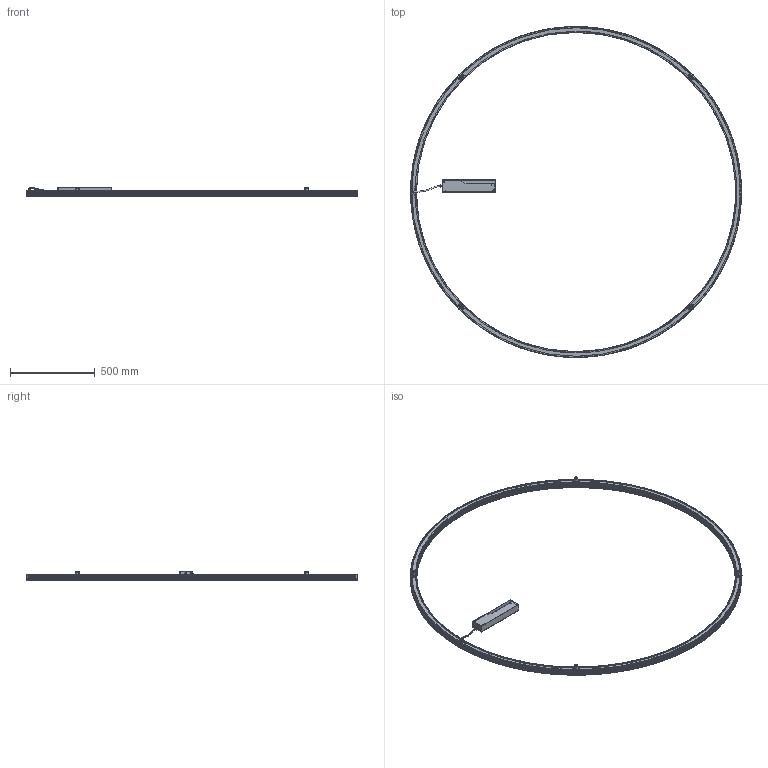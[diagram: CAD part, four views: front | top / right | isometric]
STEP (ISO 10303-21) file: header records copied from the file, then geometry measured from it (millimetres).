
FILE_DESCRIPTION(/* description */ (''),/* implementation_level */ '2;1');
FILE_NAME(/* name */ 'P232__~1',/* time_stamp */ '2024-07-05T10:28:15+02:00',/* author */ (''),/* organization */ (''),/* preprocessor_version */ 'ST-DEVELOPER v16.5',/* originating_system */ '',/* authorisation */ '');
FILE_SCHEMA (('AUTOMOTIVE_DESIGN'));
Products named in the file (1): Document
Bounding box: 1950.24 x 1950 x 58.3 mm (x, y, z)
Volume: 2005996.8 mm3; surface area: 2353255.2 mm2
Topology: 43 solids, 43 shells, 1764 faces, 4110 edges, 2406 vertices
Faces by surface type: bspline 1242, plane 522
Entity records: 91592 total; most frequent: CARTESIAN_POINT 67749, ORIENTED_EDGE 8092, EDGE_CURVE 4046, VERTEX_POINT 2406, B_SPLINE_CURVE_WITH_KNOTS 1974, EDGE_LOOP 1880, ADVANCED_FACE 1764, FACE_OUTER_BOUND 1764
